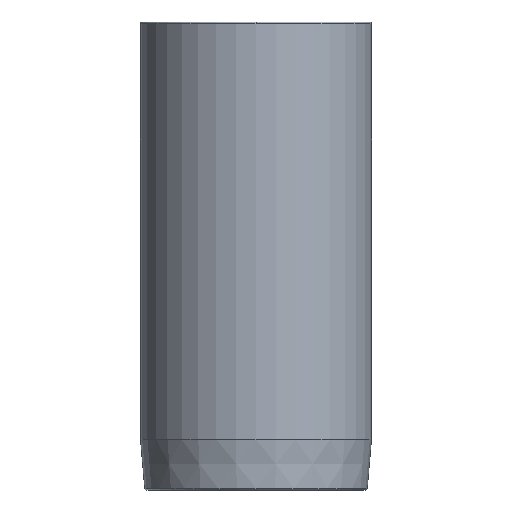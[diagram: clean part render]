
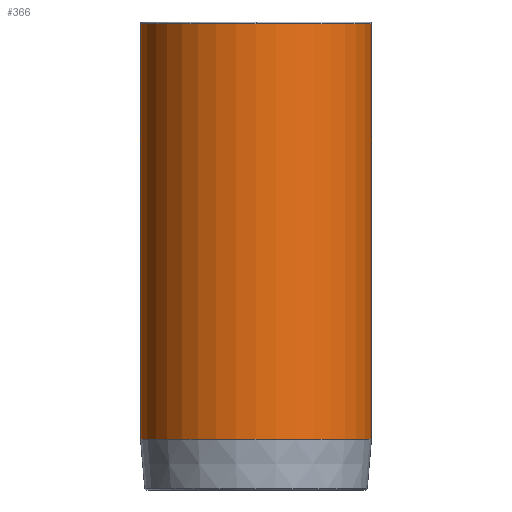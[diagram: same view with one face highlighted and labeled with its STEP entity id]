
A CAD part, front view. The second image highlights one B-rep face of the part: STEP entity #366.
In plain terms, the highlighted cylindrical face has radius 29.625 mm (diameter 59.25 mm), a partial arc.
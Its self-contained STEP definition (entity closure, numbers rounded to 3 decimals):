
#271=CARTESIAN_POINT('',(0.0,-29.625,58.5));
#272=VERTEX_POINT('',#271);
#298=CARTESIAN_POINT('',(-29.625,0.,58.5));
#299=VERTEX_POINT('',#298);
#307=CARTESIAN_POINT('',(0.0,0.,58.5));
#308=DIRECTION('',(0.0,0.0,1.0));
#309=DIRECTION('',(1.0,0.0,0.0));
#310=AXIS2_PLACEMENT_3D('',#307,#308,#309);
#311=CIRCLE('',#310,29.625);
#312=EDGE_CURVE('',#299,#272,#311,.T.);
#317=CARTESIAN_POINT('',(0.0,0.,5.272));
#318=DIRECTION('',(0.0,0.,1.0));
#319=DIRECTION('',(1.0,0.0,0.0));
#320=AXIS2_PLACEMENT_3D('',#317,#318,#319);
#321=CYLINDRICAL_SURFACE('',#320,29.625);
#322=CARTESIAN_POINT('',(29.625,0.,58.5));
#323=VERTEX_POINT('',#322);
#324=CARTESIAN_POINT('',(29.625,0.,-47.956));
#325=VERTEX_POINT('',#324);
#326=CARTESIAN_POINT('',(29.625,0.,58.5));
#327=DIRECTION('',(0.0,0.0,-1.0));
#328=VECTOR('',#327,106.456);
#329=LINE('',#326,#328);
#330=EDGE_CURVE('',#323,#325,#329,.T.);
#331=ORIENTED_EDGE('',*,*,#330,.F.);
#332=CARTESIAN_POINT('',(0.0,0.,58.5));
#333=DIRECTION('',(0.0,0.0,1.0));
#334=DIRECTION('',(1.0,0.0,0.0));
#335=AXIS2_PLACEMENT_3D('',#332,#333,#334);
#336=CIRCLE('',#335,29.625);
#337=EDGE_CURVE('',#272,#323,#336,.T.);
#338=ORIENTED_EDGE('',*,*,#337,.F.);
#339=ORIENTED_EDGE('',*,*,#312,.F.);
#340=CARTESIAN_POINT('',(-29.625,0.,-47.956));
#341=VERTEX_POINT('',#340);
#342=CARTESIAN_POINT('',(-29.625,0.,58.5));
#343=DIRECTION('',(0.0,0.0,-1.0));
#344=VECTOR('',#343,106.456);
#345=LINE('',#342,#344);
#346=EDGE_CURVE('',#299,#341,#345,.T.);
#347=ORIENTED_EDGE('',*,*,#346,.T.);
#348=CARTESIAN_POINT('',(0.0,-29.625,-47.956));
#349=VERTEX_POINT('',#348);
#350=CARTESIAN_POINT('',(0.0,0.,-47.956));
#351=DIRECTION('',(0.0,0.0,1.0));
#352=DIRECTION('',(1.0,0.0,0.0));
#353=AXIS2_PLACEMENT_3D('',#350,#351,#352);
#354=CIRCLE('',#353,29.625);
#355=EDGE_CURVE('',#341,#349,#354,.T.);
#356=ORIENTED_EDGE('',*,*,#355,.T.);
#357=CARTESIAN_POINT('',(0.0,0.,-47.956));
#358=DIRECTION('',(0.0,0.0,1.0));
#359=DIRECTION('',(1.0,0.0,0.0));
#360=AXIS2_PLACEMENT_3D('',#357,#358,#359);
#361=CIRCLE('',#360,29.625);
#362=EDGE_CURVE('',#349,#325,#361,.T.);
#363=ORIENTED_EDGE('',*,*,#362,.T.);
#364=EDGE_LOOP('',(#331,#338,#339,#347,#356,#363));
#365=FACE_OUTER_BOUND('',#364,.T.);
#366=ADVANCED_FACE('',(#365),#321,.T.);
